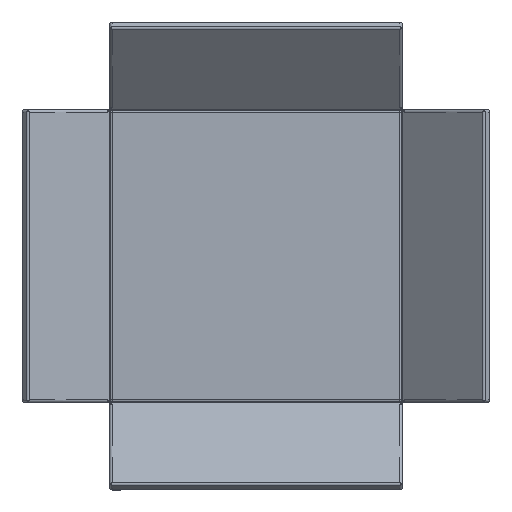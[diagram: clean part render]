
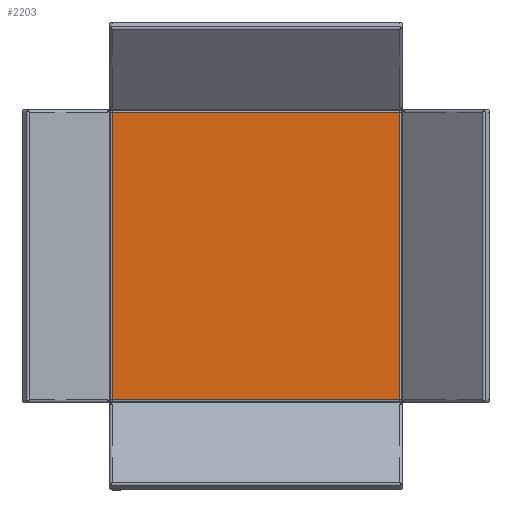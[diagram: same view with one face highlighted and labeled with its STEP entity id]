
A CAD part, front view. The second image highlights one B-rep face of the part: STEP entity #2203.
In plain terms, the highlighted planar face has unit normal (0, -1, 0).
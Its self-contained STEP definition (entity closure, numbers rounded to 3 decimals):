
#21 = VECTOR ( 'NONE', #3744, 1000. ) ;
#171 = VECTOR ( 'NONE', #991, 1000. ) ;
#285 = VERTEX_POINT ( 'NONE', #1639 ) ;
#298 = DIRECTION ( 'NONE',  ( 1., 0., 0. ) ) ;
#522 = DIRECTION ( 'NONE',  ( 0., 1., 0. ) ) ;
#638 = LINE ( 'NONE', #1041, #4140 ) ;
#647 = LINE ( 'NONE', #3114, #21 ) ;
#959 = VECTOR ( 'NONE', #3473, 1000. ) ;
#991 = DIRECTION ( 'NONE',  ( -1., 0., 0. ) ) ;
#1041 = CARTESIAN_POINT ( 'NONE',  ( -123., 0., 123. ) ) ;
#1126 = VERTEX_POINT ( 'NONE', #2406 ) ;
#1168 = ORIENTED_EDGE ( 'NONE', *, *, #3316, .F. ) ;
#1205 = DIRECTION ( 'NONE',  ( 0., 0., 1. ) ) ;
#1225 = CARTESIAN_POINT ( 'NONE',  ( 0., 0., 0. ) ) ;
#1302 = CARTESIAN_POINT ( 'NONE',  ( 123., 0., -123. ) ) ;
#1639 = CARTESIAN_POINT ( 'NONE',  ( 123., 0., 123. ) ) ;
#1705 = ORIENTED_EDGE ( 'NONE', *, *, #2310, .F. ) ;
#1745 = LINE ( 'NONE', #1302, #171 ) ;
#2203 = ADVANCED_FACE ( 'NONE', ( #4282 ), #3282, .F. ) ;
#2310 = EDGE_CURVE ( 'NONE', #1126, #285, #638, .T. ) ;
#2342 = AXIS2_PLACEMENT_3D ( 'NONE', #1225, #522, #1205 ) ;
#2406 = CARTESIAN_POINT ( 'NONE',  ( -123., 0., 123. ) ) ;
#2590 = VERTEX_POINT ( 'NONE', #3643 ) ;
#2601 = VERTEX_POINT ( 'NONE', #3250 ) ;
#2779 = CARTESIAN_POINT ( 'NONE',  ( 123., 0., 123. ) ) ;
#3018 = EDGE_LOOP ( 'NONE', ( #1705, #3529, #4362, #1168 ) ) ;
#3114 = CARTESIAN_POINT ( 'NONE',  ( -123., 0., -123. ) ) ;
#3250 = CARTESIAN_POINT ( 'NONE',  ( -123., 0., -123. ) ) ;
#3282 = PLANE ( 'NONE',  #2342 ) ;
#3316 = EDGE_CURVE ( 'NONE', #285, #2590, #3858, .T. ) ;
#3473 = DIRECTION ( 'NONE',  ( 0., 0., -1. ) ) ;
#3529 = ORIENTED_EDGE ( 'NONE', *, *, #4037, .F. ) ;
#3643 = CARTESIAN_POINT ( 'NONE',  ( 123., 0., -123. ) ) ;
#3744 = DIRECTION ( 'NONE',  ( 0., 0., 1. ) ) ;
#3858 = LINE ( 'NONE', #2779, #959 ) ;
#4037 = EDGE_CURVE ( 'NONE', #2601, #1126, #647, .T. ) ;
#4056 = EDGE_CURVE ( 'NONE', #2590, #2601, #1745, .T. ) ;
#4140 = VECTOR ( 'NONE', #298, 1000. ) ;
#4282 = FACE_OUTER_BOUND ( 'NONE', #3018, .T. ) ;
#4362 = ORIENTED_EDGE ( 'NONE', *, *, #4056, .F. ) ;
